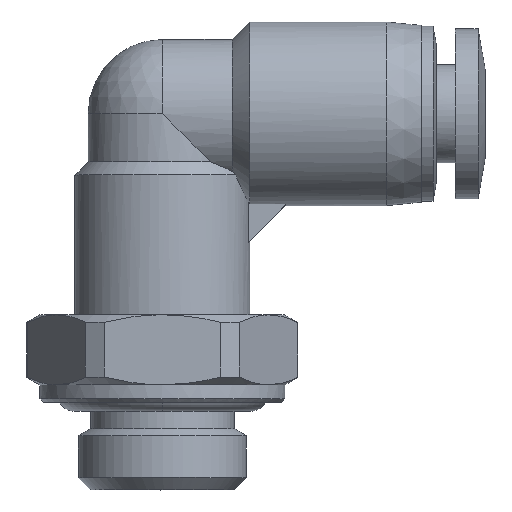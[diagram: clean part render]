
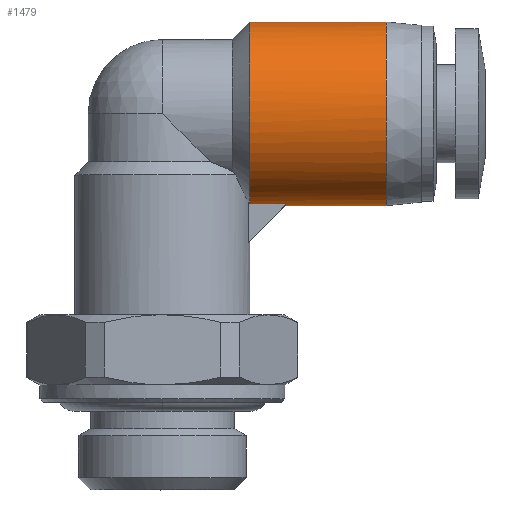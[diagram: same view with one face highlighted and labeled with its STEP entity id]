
A CAD part, top view. The second image highlights one B-rep face of the part: STEP entity #1479.
In plain terms, the highlighted cylindrical face has radius 5.25 mm (diameter 10.5 mm), a partial arc.
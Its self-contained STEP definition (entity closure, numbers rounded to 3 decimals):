
#1 = CARTESIAN_POINT ( 'NONE',  ( 12.8, 14.144, 4.587 ) ) ;
#44 = CARTESIAN_POINT ( 'NONE',  ( 12.8, 6.25, 0.687 ) ) ;
#53 = CARTESIAN_POINT ( 'NONE',  ( 5., 14.952, 4.008 ) ) ;
#74 = CARTESIAN_POINT ( 'NONE',  ( 5., 10.706, 5.23 ) ) ;
#114 = CARTESIAN_POINT ( 'NONE',  ( 5., 14.429, 4.404 ) ) ;
#159 = CARTESIAN_POINT ( 'NONE',  ( 8.9, 11.5, 0. ) ) ;
#239 = LINE ( 'NONE', #2962, #761 ) ;
#264 = EDGE_CURVE ( 'NONE', #1993, #3544, #1720, .T. ) ;
#295 = VERTEX_POINT ( 'NONE', #4073 ) ;
#380 = EDGE_CURVE ( 'NONE', #1993, #3719, #4036, .T. ) ;
#441 = CARTESIAN_POINT ( 'NONE',  ( 5., 16.75, 0. ) ) ;
#653 = CARTESIAN_POINT ( 'NONE',  ( 12.8, 6.387, 1.374 ) ) ;
#748 = CARTESIAN_POINT ( 'NONE',  ( 5., 7.396, 3.337 ) ) ;
#761 = VECTOR ( 'NONE', #3317, 1000. ) ;
#834 = CARTESIAN_POINT ( 'NONE',  ( 7.096, 6.346, 1. ) ) ;
#1017 = CARTESIAN_POINT ( 'NONE',  ( 12.8, 10.813, 5.25 ) ) ;
#1035 = CARTESIAN_POINT ( 'NONE',  ( 12.8, 15.698, 3.226 ) ) ;
#1068 = CARTESIAN_POINT ( 'NONE',  ( 5., 8.875, 4.592 ) ) ;
#1130 = CARTESIAN_POINT ( 'NONE',  ( 7., 6.25, 0.337 ) ) ;
#1135 = CARTESIAN_POINT ( 'NONE',  ( 5., 16.165, 2.494 ) ) ;
#1255 = VERTEX_POINT ( 'NONE', #2541 ) ;
#1265 = ORIENTED_EDGE ( 'NONE', *, *, #4056, .F. ) ;
#1315 = AXIS2_PLACEMENT_3D ( 'NONE', #159, #3145, #2427 ) ;
#1345 = CARTESIAN_POINT ( 'NONE',  ( 12.8, 8.856, 4.587 ) ) ;
#1358 = CARTESIAN_POINT ( 'NONE',  ( 12.8, 6.25, 0. ) ) ;
#1374 = CARTESIAN_POINT ( 'NONE',  ( 5., 13.275, 4.983 ) ) ;
#1441 = CARTESIAN_POINT ( 'NONE',  ( 5., 6.71, 2.244 ) ) ;
#1450 = VERTEX_POINT ( 'NONE', #3997 ) ;
#1479 = ADVANCED_FACE ( 'NONE', ( #2452 ), #4103, .T. ) ;
#1481 = CARTESIAN_POINT ( 'NONE',  ( 7.032, 6.282, 0.67 ) ) ;
#1556 = EDGE_CURVE ( 'NONE', #3719, #1450, #4098, .T. ) ;
#1565 = CARTESIAN_POINT ( 'NONE',  ( 7., 6.25, 0. ) ) ;
#1653 = CARTESIAN_POINT ( 'NONE',  ( 12.8, 6.25, 0. ) ) ;
#1701 = CARTESIAN_POINT ( 'NONE',  ( 8.9, 6.25, 0. ) ) ;
#1720 = LINE ( 'NONE', #1701, #2158 ) ;
#1749 = CARTESIAN_POINT ( 'NONE',  ( 5., 6.346, 1. ) ) ;
#1771 = EDGE_CURVE ( 'NONE', #295, #1450, #3512, .T. ) ;
#1810 = B_SPLINE_CURVE_WITH_KNOTS ( 'NONE', 3,
 ( #1653, #44, #653, #2980, #2331, #4043, #1345, #2679, #1017, #3683, #3959, #1, #1931, #1035, #3333, #3268, #2352, #2374 ),
 .UNSPECIFIED., .F., .F.,
 ( 4, 2, 2, 2, 2, 2, 2, 2, 4 ),
 ( 0.5, 0.562, 0.625, 0.687, 0.75, 0.812, 0.875, 0.938, 1. ),
 .UNSPECIFIED. ) ;
#1931 = CARTESIAN_POINT ( 'NONE',  ( 12.8, 14.726, 4.198 ) ) ;
#1993 = VERTEX_POINT ( 'NONE', #2442 ) ;
#2158 = VECTOR ( 'NONE', #3033, 1000. ) ;
#2165 = CARTESIAN_POINT ( 'NONE',  ( 5., 6.346, 1. ) ) ;
#2259 = CARTESIAN_POINT ( 'NONE',  ( 7.096, 6.346, 1. ) ) ;
#2290 = ORIENTED_EDGE ( 'NONE', *, *, #380, .F. ) ;
#2331 = CARTESIAN_POINT ( 'NONE',  ( 12.8, 7.302, 3.226 ) ) ;
#2332 = EDGE_CURVE ( 'NONE', #3544, #1255, #1810, .T. ) ;
#2352 = CARTESIAN_POINT ( 'NONE',  ( 12.8, 16.75, 0.687 ) ) ;
#2374 = CARTESIAN_POINT ( 'NONE',  ( 12.8, 16.75, 0. ) ) ;
#2405 = CARTESIAN_POINT ( 'NONE',  ( 5., 7.841, 3.82 ) ) ;
#2427 = DIRECTION ( 'NONE',  ( 0., 1., 0. ) ) ;
#2442 = CARTESIAN_POINT ( 'NONE',  ( 7., 6.25, 0. ) ) ;
#2448 = CARTESIAN_POINT ( 'NONE',  ( 5., 16.63, 1.29 ) ) ;
#2452 = FACE_OUTER_BOUND ( 'NONE', #2538, .T. ) ;
#2480 = ORIENTED_EDGE ( 'NONE', *, *, #264, .T. ) ;
#2538 = EDGE_LOOP ( 'NONE', ( #2290, #2480, #2774, #1265, #3173, #3442 ) ) ;
#2541 = CARTESIAN_POINT ( 'NONE',  ( 12.8, 16.75, 0. ) ) ;
#2679 = CARTESIAN_POINT ( 'NONE',  ( 12.8, 10.126, 5.113 ) ) ;
#2709 = CARTESIAN_POINT ( 'NONE',  ( 5., 11.36, 5.288 ) ) ;
#2732 = CARTESIAN_POINT ( 'NONE',  ( 5., 15.82, 3.053 ) ) ;
#2774 = ORIENTED_EDGE ( 'NONE', *, *, #2332, .T. ) ;
#2811 = CARTESIAN_POINT ( 'NONE',  ( 7.096, 6.346, 1. ) ) ;
#2962 = CARTESIAN_POINT ( 'NONE',  ( 8.9, 16.75, 0. ) ) ;
#2980 = CARTESIAN_POINT ( 'NONE',  ( 12.8, 6.913, 2.644 ) ) ;
#3033 = DIRECTION ( 'NONE',  ( 1., 0., 0. ) ) ;
#3035 = CARTESIAN_POINT ( 'NONE',  ( 5., 16.75, 0.645 ) ) ;
#3145 = DIRECTION ( 'NONE',  ( 1., 0., 0. ) ) ;
#3173 = ORIENTED_EDGE ( 'NONE', *, *, #1771, .T. ) ;
#3268 = CARTESIAN_POINT ( 'NONE',  ( 12.8, 16.613, 1.374 ) ) ;
#3317 = DIRECTION ( 'NONE',  ( 1., 0., 0. ) ) ;
#3333 = CARTESIAN_POINT ( 'NONE',  ( 12.8, 16.087, 2.644 ) ) ;
#3409 = CARTESIAN_POINT ( 'NONE',  ( 5., 6.469, 1.633 ) ) ;
#3442 = ORIENTED_EDGE ( 'NONE', *, *, #1556, .F. ) ;
#3512 = B_SPLINE_CURVE_WITH_KNOTS ( 'NONE', 3,
 ( #441, #3035, #2448, #1135, #2732, #53, #114, #1374, #3783, #2709, #74, #4077, #1068, #2405, #748, #1441, #3409, #1749 ),
 .UNSPECIFIED., .F., .F.,
 ( 4, 2, 2, 2, 2, 2, 2, 2, 4 ),
 ( 0.5, 0.563, 0.625, 0.688, 0.75, 0.813, 0.875, 0.938, 1. ),
 .UNSPECIFIED. ) ;
#3544 = VERTEX_POINT ( 'NONE', #1358 ) ;
#3683 = CARTESIAN_POINT ( 'NONE',  ( 12.8, 12.187, 5.25 ) ) ;
#3719 = VERTEX_POINT ( 'NONE', #2259 ) ;
#3783 = CARTESIAN_POINT ( 'NONE',  ( 5., 12.645, 5.164 ) ) ;
#3959 = CARTESIAN_POINT ( 'NONE',  ( 12.8, 12.874, 5.113 ) ) ;
#3997 = CARTESIAN_POINT ( 'NONE',  ( 5., 6.346, 1. ) ) ;
#4036 = B_SPLINE_CURVE_WITH_KNOTS ( 'NONE', 3,
 ( #1565, #1130, #1481, #2811 ),
 .UNSPECIFIED., .F., .F.,
 ( 4, 4 ),
 ( 0.5, 1. ),
 .UNSPECIFIED. ) ;
#4043 = CARTESIAN_POINT ( 'NONE',  ( 12.8, 8.274, 4.198 ) ) ;
#4056 = EDGE_CURVE ( 'NONE', #295, #1255, #239, .T. ) ;
#4073 = CARTESIAN_POINT ( 'NONE',  ( 5., 16.75, 0. ) ) ;
#4077 = CARTESIAN_POINT ( 'NONE',  ( 5., 9.463, 4.882 ) ) ;
#4098 = B_SPLINE_CURVE_WITH_KNOTS ( 'NONE', 3,
 ( #834, #4249, #4226, #2165 ),
 .UNSPECIFIED., .F., .F.,
 ( 4, 4 ),
 ( 0., 1. ),
 .UNSPECIFIED. ) ;
#4103 = CYLINDRICAL_SURFACE ( 'NONE', #1315, 5.25 ) ;
#4226 = CARTESIAN_POINT ( 'NONE',  ( 5.699, 6.346, 1. ) ) ;
#4249 = CARTESIAN_POINT ( 'NONE',  ( 6.397, 6.346, 1. ) ) ;
